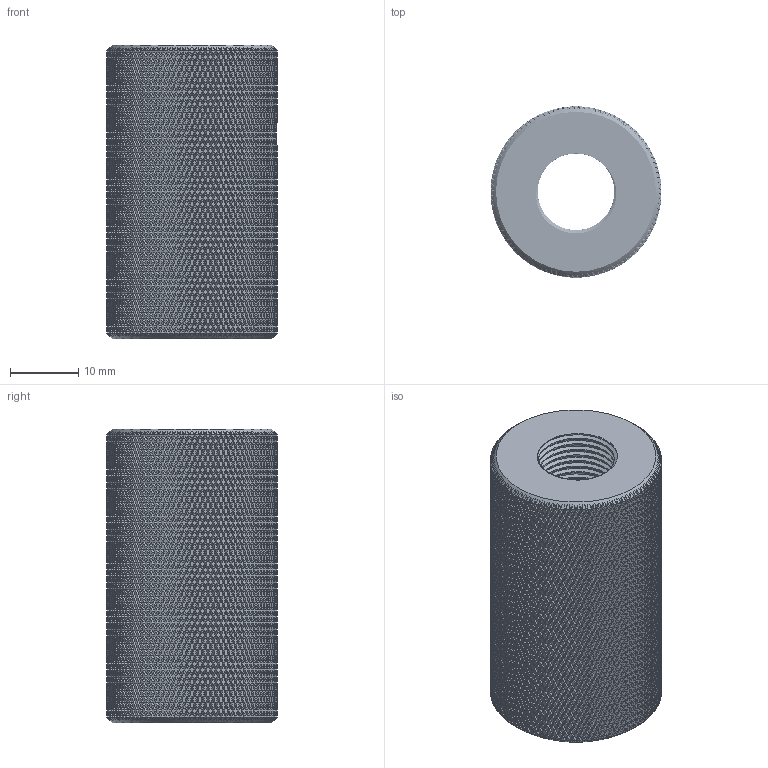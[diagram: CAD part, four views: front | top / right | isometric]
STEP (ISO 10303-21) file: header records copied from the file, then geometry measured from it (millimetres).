
FILE_DESCRIPTION(/* description */ (''),/* implementation_level */ '2;1');
FILE_NAME(/* name */ 'C:/Users/LOIC/Desktop/monopod pour cnc/V7 CORPS v3.step',/* time_stamp */ '2021-09-28T23:12:40+02:00',/* author */ (''),/* organization */ (''),/* preprocessor_version */ 'ST-DEVELOPER v18.1',/* originating_system */ 'Autodesk Translation Framework v10.10.0.1391',/* authorisation */ '');
FILE_SCHEMA (('AUTOMOTIVE_DESIGN { 1 0 10303 214 3 1 1 }'));
Products named in the file (1): V7 CORPS
Bounding box: 25 x 25 x 43 mm (x, y, z)
Volume: 8585.3 mm3; surface area: 13599.8 mm2
Topology: 1 solids, 1 shells, 24907 faces, 50325 edges, 25420 vertices
Faces by surface type: bspline 19942, cylinder 4959, plane 4, cone 2
Full cylindrical faces by diameter (mm): 4 x1, 11.235 x7, 12.152 x7, 19.235 x24, 20.152 x24, 21 x1
Entity records: 900084 total; most frequent: CARTESIAN_POINT 558009, ORIENTED_EDGE 100650, EDGE_CURVE 50325, B_SPLINE_CURVE_WITH_KNOTS 50040, VERTEX_POINT 25420, EDGE_LOOP 24911, FACE_OUTER_BOUND 24907, ADVANCED_FACE 24907
